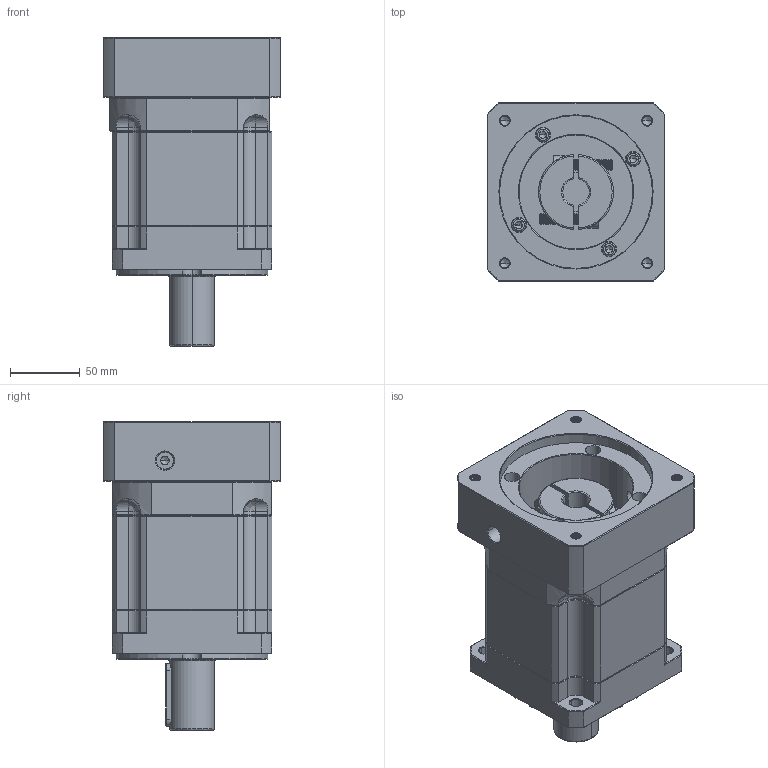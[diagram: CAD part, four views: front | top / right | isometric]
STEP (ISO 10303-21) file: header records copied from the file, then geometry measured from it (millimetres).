
FILE_DESCRIPTION (( 'STEP AP214' ), '1' );
FILE_NAME ('ZB115A-D32-L2-19-110-145-M8.step', '2023-03-02T09:00:37', ( '' ), ( 'Microsoft' ), 'SwSTEP 2.0', 'SolidWorks 2016', '' );
FILE_SCHEMA (( 'AUTOMOTIVE_DESIGN' ));
Length unit declared in the file: millimetre
Products named in the file (1): ZB115A-D32-L2-19-110-145-M8
Bounding box: 128 x 128 x 222 mm (x, y, z)
Volume: 1959308 mm3; surface area: 191107.1 mm2
Topology: 6 solids, 6 shells, 2114 faces, 5464 edges, 3444 vertices
Faces by surface type: plane 963, cylinder 439, cone 367, bspline 325, torus 20
Entity records: 113406 total; most frequent: CARTESIAN_POINT 41500, ORIENTED_EDGE 10860, DIRECTION 8906, EDGE_CURVE 5430, VERTEX_POINT 3444, LINE 3372, VECTOR 3372, AXIS2_PLACEMENT_3D 2767
